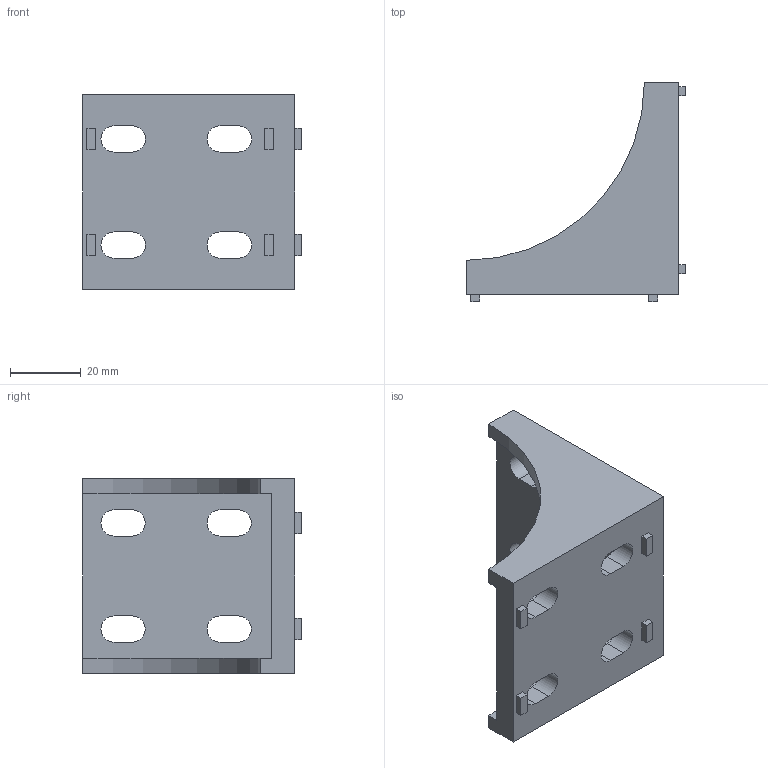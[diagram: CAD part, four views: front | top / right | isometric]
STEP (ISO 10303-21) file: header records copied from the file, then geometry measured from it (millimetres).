
FILE_DESCRIPTION(/* description */ ('Unknown'),/* implementation_level */ '2;1');
FILE_NAME(/* name */ 'DL5560',/* time_stamp */ '2026-09-18T09:36:05+08:00',/* author */ ('Unknown'),/* organization */ ('Unknown'),/* preprocessor_version */ 'ST-DEVELOPER v16.7',/* originating_system */ 'DEX',/* authorisation */ $);
FILE_SCHEMA (('AUTOMOTIVE_DESIGN {1 0 10303 214 3 1 1}'));
Length unit declared in the file: millimetre
Products named in the file (1): DL5560 - 複
Bounding box: 61.9 x 61.9 x 55 mm (x, y, z)
Volume: 44112.1 mm3; surface area: 18695.3 mm2
Topology: 1 solids, 1 shells, 84 faces, 222 edges, 148 vertices
Faces by surface type: plane 66, cylinder 18
Entity records: 2644 total; most frequent: CARTESIAN_POINT 455, ORIENTED_EDGE 444, DIRECTION 428, EDGE_CURVE 222, LINE 186, VECTOR 186, VERTEX_POINT 148, AXIS2_PLACEMENT_3D 121
